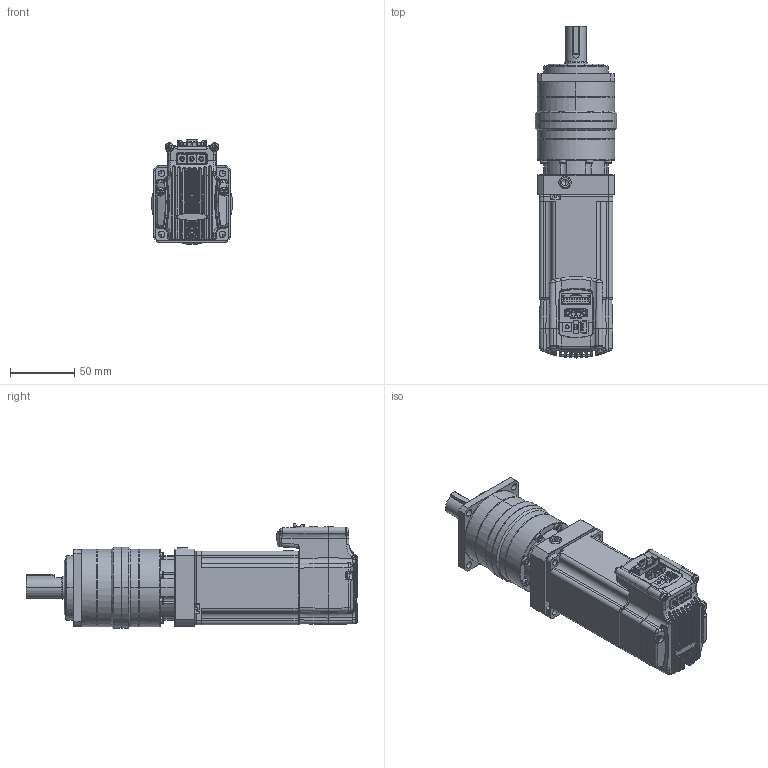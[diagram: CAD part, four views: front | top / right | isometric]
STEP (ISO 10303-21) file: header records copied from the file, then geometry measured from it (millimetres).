
FILE_DESCRIPTION (( 'STEP AP203' ), '1' );
FILE_NAME ('130416 Ezi-SERVO PG-ALL-56L-PN15~50.STEP', '2013-04-17T01:29:08', ( '' ), ( '' ), 'SwSTEP 2.0', 'SolidWorks 2012', '' );
FILE_SCHEMA (( 'CONFIG_CONTROL_DESIGN' ));
Products named in the file (40): 130416 Ezi-SERVO PG-ALL-56L-PN15~50; ST56 2ST; M3 TAPPING SCREW.2_5; M3 TAPPING SCREW.1_5; M3 MACHIN SCREW.3; M3 MACHIN SCREW.2; M3 MACHIN SCREW.1; CASE RR-TYPE B; CASE FRT_4; NAME PLATE_4; CONNECTOR PCB_4; DISPLAY PCB_4; POWER PARTS.7_4; POWER PARTS.6_4; POWER PARTS.5_4; POWER PARTS.4_4; POWER PARTS.3_4; POWER PARTS.2_4; POWER PARTS.1_4; MAIN PCB.2_4; MAIN PCB.1_4; _X2_D30CD2B8_X0_80_4; _X2_D30CD2B8_X0_79_4; _X2_D30CD2B8_X0_78_4; _X2_D30CD2B8_X0_75_5_2; _X2_D30CD2B8_X0_75_5; _X2_D30CD2B8_X0_73_5_2; _X2_D30CD2B8_X0_73_5; _X2_D30CD2B8_X0_69_4; MSBR_4; UPPER COVER_4; TRM_SRF_4; _X2_D30CD2B8_X0_115; _X2_D30CD2B8_X0_96_6_3; _X2_D30CD2B8_X0_94_6_3; _X2_D30CD2B8_X0_96_6_2; _X2_D30CD2B8_X0_94_6_2; _X2_D30CD2B8_X0_96_6; _X2_D30CD2B8_X0_94_6; F181
Assembly tree (39 placements, depth 2):
  130416 Ezi-SERVO PG-ALL-56L-PN15~50
    F181
    _X2_D30CD2B8_X0_94_6
    _X2_D30CD2B8_X0_96_6
    _X2_D30CD2B8_X0_94_6_2
    _X2_D30CD2B8_X0_96_6_2
    _X2_D30CD2B8_X0_94_6_3
    _X2_D30CD2B8_X0_96_6_3
    _X2_D30CD2B8_X0_115
    TRM_SRF_4
    UPPER COVER_4
    MSBR_4
    _X2_D30CD2B8_X0_69_4
    _X2_D30CD2B8_X0_73_5
    _X2_D30CD2B8_X0_73_5_2
    _X2_D30CD2B8_X0_75_5
    _X2_D30CD2B8_X0_75_5_2
    _X2_D30CD2B8_X0_78_4
    _X2_D30CD2B8_X0_79_4
    _X2_D30CD2B8_X0_80_4
    MAIN PCB.1_4
    MAIN PCB.2_4
    POWER PARTS.1_4
    POWER PARTS.2_4
    POWER PARTS.3_4
    POWER PARTS.4_4
    POWER PARTS.5_4
    POWER PARTS.6_4
    POWER PARTS.7_4
    DISPLAY PCB_4
    CONNECTOR PCB_4
    NAME PLATE_4
    CASE FRT_4
    CASE RR-TYPE B
    M3 MACHIN SCREW.1
    M3 MACHIN SCREW.2
    M3 MACHIN SCREW.3
    M3 TAPPING SCREW.1_5
    M3 TAPPING SCREW.2_5
    ST56 2ST
Bounding box: 63 x 257.5 x 81.43 mm (x, y, z)
Volume: 578609.7 mm3; surface area: 131891.1 mm2
Topology: 37 solids, 39 shells, 3658 faces, 9202 edges, 5635 vertices
Faces by surface type: plane 1598, cylinder 1133, bspline 669, cone 204, torus 54
Entity records: 171279 total; most frequent: CARTESIAN_POINT 88162, ORIENTED_EDGE 18126, DIRECTION 13389, EDGE_CURVE 9085, VERTEX_POINT 5635, AXIS2_PLACEMENT_3D 4495, LINE 4399, VECTOR 4399
